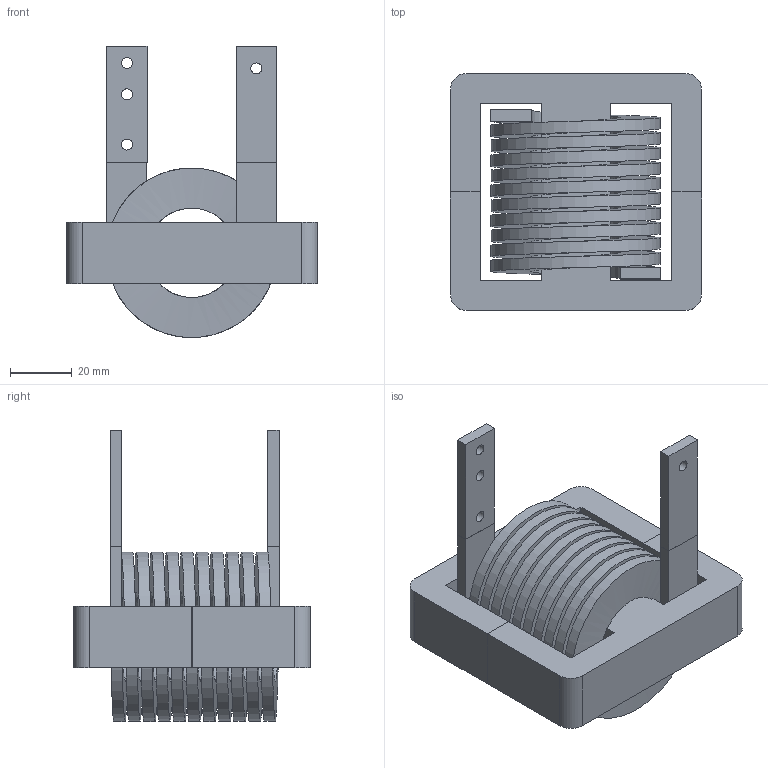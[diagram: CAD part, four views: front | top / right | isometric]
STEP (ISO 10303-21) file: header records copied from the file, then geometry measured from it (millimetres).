
FILE_DESCRIPTION (( 'STEP AP214' ), '1' );
FILE_NAME ('LCEK38A61-200M-450AH REV. A.STEP', '2020-03-03T00:26:54', ( '' ), ( '' ), 'SwSTEP 2.0', 'SolidWorks 2015', '' );
FILE_SCHEMA (( 'AUTOMOTIVE_DESIGN' ));
Length unit declared in the file: inch
Products named in the file (7): LCEK38A61-200M-450AH core; LCEK38A61-200M-450AH REV. A; LCEK38A61-200M-450AH coil
Assembly tree (4 placements, depth 2):
  LCEK38A61-200M-450AH core
  LCEK38A61-200M-450AH REV. A
    LCEK38A61-200M-450AH core  x2
    LCEK38A61-200M-450AH coil
  LCEK38A61-200M-450AH REV. A
    LCEK38A61-200M-450AH coil
  LCEK38A61-200M-450AH core
Bounding box: 81.28 x 76.71 x 94.23 mm (x, y, z)
Volume: 149108 mm3; surface area: 72148.3 mm2
Topology: 3 solids, 3 shells, 60 faces, 150 edges, 99 vertices
Faces by surface type: plane 48, cylinder 8, bspline 4
Full cylindrical faces by diameter (mm): 3.556 x4
Entity records: 4920 total; most frequent: CARTESIAN_POINT 3510, DIRECTION 206, ORIENTED_EDGE 204, EDGE_CURVE 102, VECTOR 82, LINE 82, VERTEX_POINT 68, AXIS2_PLACEMENT_3D 62
